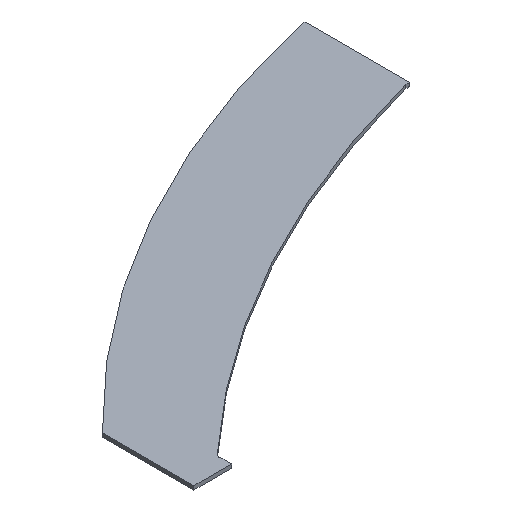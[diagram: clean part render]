
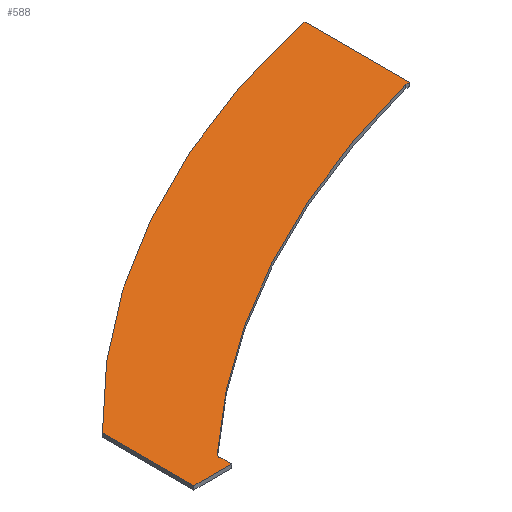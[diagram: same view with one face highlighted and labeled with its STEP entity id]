
A CAD part, isometric view. The second image highlights one B-rep face of the part: STEP entity #588.
In plain terms, the highlighted planar face has unit normal (0, 0, 1).
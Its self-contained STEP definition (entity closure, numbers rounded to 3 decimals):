
#432=PLANE('',#570);
#444=ORIENTED_EDGE('',*,*,#518,.T.);
#445=ORIENTED_EDGE('',*,*,#522,.T.);
#446=ORIENTED_EDGE('',*,*,#523,.F.);
#447=ORIENTED_EDGE('',*,*,#524,.T.);
#448=ORIENTED_EDGE('',*,*,#525,.T.);
#449=ORIENTED_EDGE('',*,*,#526,.F.);
#450=ORIENTED_EDGE('',*,*,#527,.T.);
#451=ORIENTED_EDGE('',*,*,#528,.T.);
#452=ORIENTED_EDGE('',*,*,#529,.F.);
#494=CIRCLE('',#568,10.);
#496=CIRCLE('',#571,2580.282);
#497=CIRCLE('',#572,2429.72);
#500=VERTEX_POINT('',#776);
#501=VERTEX_POINT('',#777);
#504=VERTEX_POINT('',#785);
#505=VERTEX_POINT('',#787);
#506=VERTEX_POINT('',#789);
#507=VERTEX_POINT('',#791);
#508=VERTEX_POINT('',#793);
#509=VERTEX_POINT('',#795);
#510=VERTEX_POINT('',#797);
#518=EDGE_CURVE('',#500,#501,#494,.T.);
#522=EDGE_CURVE('',#501,#504,#496,.T.);
#523=EDGE_CURVE('',#505,#504,#853,.T.);
#524=EDGE_CURVE('',#505,#506,#854,.T.);
#525=EDGE_CURVE('',#506,#507,#855,.T.);
#526=EDGE_CURVE('',#508,#507,#497,.T.);
#527=EDGE_CURVE('',#508,#509,#856,.T.);
#528=EDGE_CURVE('',#509,#510,#857,.T.);
#529=EDGE_CURVE('',#500,#510,#858,.T.);
#546=EDGE_LOOP('',(#444,#445,#446,#447,#448,#449,#450,#451,#452));
#557=FACE_BOUND('',#546,.T.);
#568=AXIS2_PLACEMENT_3D('',#778,#621,#622);
#570=AXIS2_PLACEMENT_3D('',#784,#627,#628);
#571=AXIS2_PLACEMENT_3D('',#786,#629,#630);
#572=AXIS2_PLACEMENT_3D('',#794,#634,#635);
#588=ADVANCED_FACE('',(#557),#432,.T.);
#621=DIRECTION('',(0.,0.,-1.));
#622=DIRECTION('',(10.,0.,0.));
#627=DIRECTION('',(0.,0.,1.));
#628=DIRECTION('',(0.,-1.,0.));
#629=DIRECTION('',(0.,0.,-1.));
#630=DIRECTION('',(-862.036,2432.026,0.));
#631=DIRECTION('',(-10.,0.,0.));
#632=DIRECTION('',(0.,277.852,0.));
#633=DIRECTION('',(-10.,0.,0.));
#634=DIRECTION('',(0.,0.,-1.));
#635=DIRECTION('',(-537.711,2369.474,0.));
#636=DIRECTION('',(0.,-243.239,0.));
#637=DIRECTION('',(100.,0.,0.));
#638=DIRECTION('',(0.,-34.095,0.));
#696=VECTOR('',#631,1.);
#697=VECTOR('',#632,1.);
#698=VECTOR('',#633,1.);
#699=VECTOR('',#636,1.);
#700=VECTOR('',#637,1.);
#701=VECTOR('',#638,1.);
#776=CARTESIAN_POINT('',(-840.871,-743.405,10.));
#777=CARTESIAN_POINT('',(-837.647,-736.051,10.));
#778=CARTESIAN_POINT('',(-830.871,-743.405,10.));
#784=CARTESIAN_POINT('',(0.,0.,10.));
#785=CARTESIAN_POINT('',(264.129,-135.712,10.));
#786=CARTESIAN_POINT('',(910.769,-2633.654,10.));
#787=CARTESIAN_POINT('',(274.129,-135.712,10.));
#788=CARTESIAN_POINT('',(274.129,-135.712,10.));
#789=CARTESIAN_POINT('',(274.129,142.139,10.));
#790=CARTESIAN_POINT('',(274.129,-135.712,10.));
#791=CARTESIAN_POINT('',(264.129,142.139,10.));
#792=CARTESIAN_POINT('',(274.129,142.139,10.));
#793=CARTESIAN_POINT('',(-940.871,-534.261,10.));
#794=CARTESIAN_POINT('',(801.839,-2227.334,10.));
#795=CARTESIAN_POINT('',(-940.871,-777.5,10.));
#796=CARTESIAN_POINT('',(-940.871,-534.261,10.));
#797=CARTESIAN_POINT('',(-840.871,-777.5,10.));
#798=CARTESIAN_POINT('',(-940.871,-777.5,10.));
#799=CARTESIAN_POINT('',(-840.871,-743.405,10.));
#853=LINE('',#788,#696);
#854=LINE('',#790,#697);
#855=LINE('',#792,#698);
#856=LINE('',#796,#699);
#857=LINE('',#798,#700);
#858=LINE('',#799,#701);
